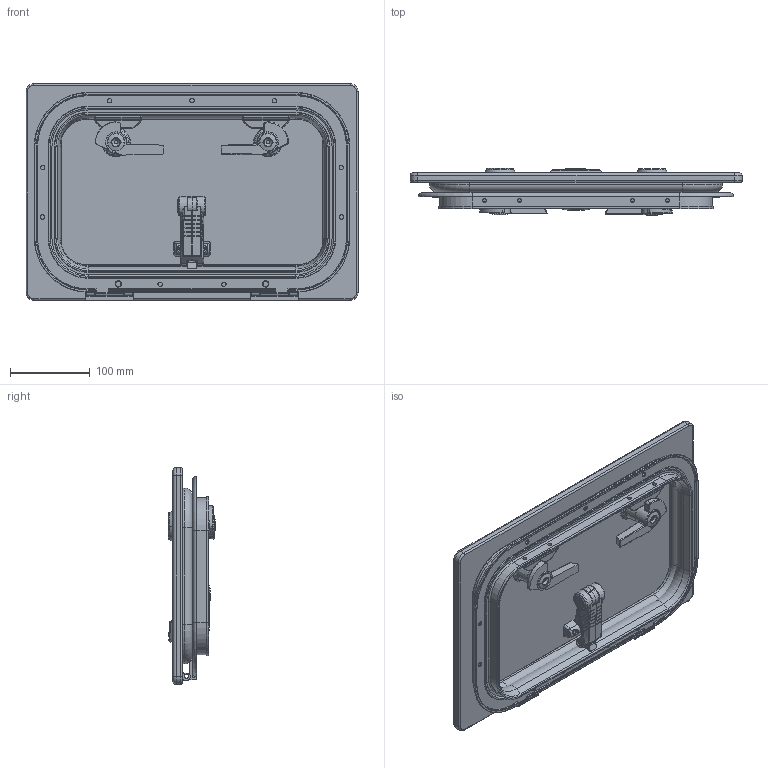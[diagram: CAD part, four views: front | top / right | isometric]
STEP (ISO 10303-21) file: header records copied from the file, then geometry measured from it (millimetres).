
FILE_DESCRIPTION((''),'2;1');
FILE_NAME('39920X1Y_ASM','2009-12-18T',('awickes'),(''),'PRO/ENGINEER BY PARAMETRIC TECHNOLOGY CORPORATION, 2007030','PRO/ENGINEER BY PARAMETRIC TECHNOLOGY CORPORATION, 2007030','');
FILE_SCHEMA(('CONFIG_CONTROL_DESIGN'));
Length unit declared in the file: millimetre
Products named in the file (26): 35002023; 35001767_AF0; 35001781_AF0; 35001828Z; 38002023Y_AF0_ASM; 35000998Z; 35002022X; 35001954Y; 35001825Z; 35001823Z; 15801312; 15801315; 39920X1Y_SEAL; 15801313; 35001827Z; 15801279; 38002022X_ASM; 35001857Z; 35001717Z; 35001858Z; 35001859Z; B20153; 15801293; B20152; 38001856_FOR_30188400_ASM; 39920X1Y_ASM
Assembly tree (32 placements, depth 3):
  39920X1Y_ASM
    38002023Y_AF0_ASM
      35002023
      35001767_AF0
      35001781_AF0
      35001828Z
    35000998Z  x2
    38002022X_ASM
      35002022X
      35001954Y  x2
      35001825Z  x2
      35001823Z  x2
      15801312
      15801315  x2
      39920X1Y_SEAL
      15801313
      35001827Z
      15801279  x2
    38001856_FOR_30188400_ASM
      35001857Z
      35001717Z  x2
      35001858Z
      35001859Z
      B20153
      15801293
      B20152
Bounding box: 417 x 59.13 x 272 mm (x, y, z)
Volume: 1883095.9 mm3; surface area: 564775.3 mm2
Topology: 29 solids, 31 shells, 2073 faces, 5165 edges, 3204 vertices
Faces by surface type: cylinder 724, plane 650, bspline 280, torus 230, cone 127, sphere 52, extrusion 10
Entity records: 67798 total; most frequent: CARTESIAN_POINT 26763, ORIENTED_EDGE 8809, DIRECTION 8134, EDGE_CURVE 4407, AXIS2_PLACEMENT_3D 3196, VERTEX_POINT 2739, EDGE_LOOP 1907, FACE_OUTER_BOUND 1760
